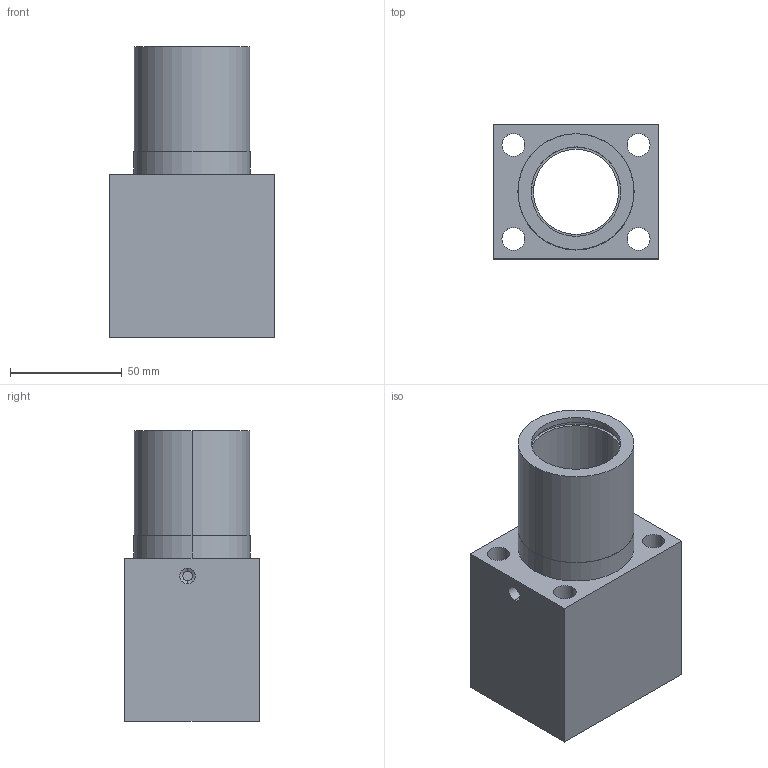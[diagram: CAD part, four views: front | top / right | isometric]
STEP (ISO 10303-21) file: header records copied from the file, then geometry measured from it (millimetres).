
FILE_DESCRIPTION (( 'STEP AP203' ), '1' );
FILE_NAME ('KTFG83-25.SLDPRT.step', '2020-06-15T06:22:57', ( '' ), ( '' ), 'SwSTEP 2.0', 'SolidWorks 2019', '' );
FILE_SCHEMA (( 'CONFIG_CONTROL_DESIGN' ));
Length unit declared in the file: millimetre
Products named in the file (2): KTFG83-25.SLDPRT
Bounding box: 74 x 60 x 130 mm (x, y, z)
Volume: 256611.4 mm3; surface area: 61455.4 mm2
Topology: 1 solids, 1 shells, 46 faces, 107 edges, 70 vertices
Faces by surface type: cylinder 30, plane 14, cone 2
Entity records: 1562 total; most frequent: CARTESIAN_POINT 279, DIRECTION 257, ORIENTED_EDGE 214, EDGE_CURVE 107, AXIS2_PLACEMENT_3D 106, VERTEX_POINT 70, EDGE_LOOP 65, CIRCLE 58
